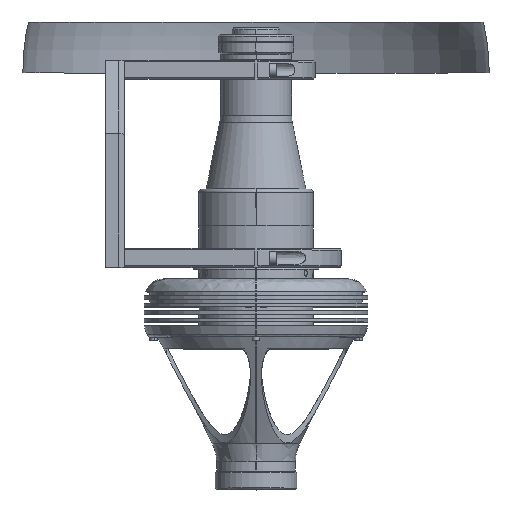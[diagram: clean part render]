
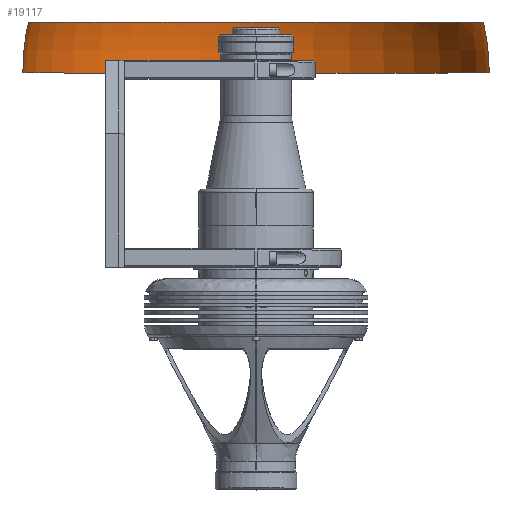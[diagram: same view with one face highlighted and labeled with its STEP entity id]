
A CAD part, top view. The second image highlights one B-rep face of the part: STEP entity #19117.
In plain terms, the highlighted face is a revolution surface.
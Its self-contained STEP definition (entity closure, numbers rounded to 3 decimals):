
#19117 = ADVANCED_FACE('',(#19118),#19136,.T.);
#19118 = FACE_BOUND('',#19119,.T.);
#19119 = EDGE_LOOP('',(#19120,#19150,#19173,#19192));
#19120 = ORIENTED_EDGE('',*,*,#19121,.F.);
#19121 = EDGE_CURVE('',#19122,#19124,#19126,.T.);
#19122 = VERTEX_POINT('',#19123);
#19123 = CARTESIAN_POINT('',(-124.,16.66,0.)
  );
#19124 = VERTEX_POINT('',#19125);
#19125 = CARTESIAN_POINT('',(-121.025,43.66,
    0.));
#19126 = SURFACE_CURVE('',#19127,(#19135),.PCURVE_S1.);
#19127 = ( BOUNDED_CURVE() B_SPLINE_CURVE(6,(#19128,#19129,#19130,#19131
    ,#19132,#19133,#19134),.UNSPECIFIED.,.F.,.F.) 
B_SPLINE_CURVE_WITH_KNOTS((7,7),(0.,1.),.PIECEWISE_BEZIER_KNOTS.) CURVE(
) GEOMETRIC_REPRESENTATION_ITEM() RATIONAL_B_SPLINE_CURVE((
    1.001,1.,1.,1.,
1.,1.,1.001)) REPRESENTATION_ITEM('') 
  );
#19128 = CARTESIAN_POINT('',(-124.,16.66,0.)
  );
#19129 = CARTESIAN_POINT('',(-124.,21.198,
    0.));
#19130 = CARTESIAN_POINT('',(-123.801,25.734,
    0.));
#19131 = CARTESIAN_POINT('',(-123.402,30.258,
    0.));
#19132 = CARTESIAN_POINT('',(-122.806,34.76,
    0.));
#19133 = CARTESIAN_POINT('',(-122.013,39.231,
    0.));
#19134 = CARTESIAN_POINT('',(-121.025,43.66,
    0.));
#19135 = PCURVE('',#19136,#19145);
#19136 = SURFACE_OF_REVOLUTION('',#19137,#19142);
#19137 = CIRCLE('',#19138,124.);
#19138 = AXIS2_PLACEMENT_3D('',#19139,#19140,#19141);
#19139 = CARTESIAN_POINT('',(0.,16.66,0.));
#19140 = DIRECTION('',(0.,0.,1.));
#19141 = DIRECTION('',(1.,0.,0.));
#19142 = AXIS1_PLACEMENT('',#19143,#19144);
#19143 = CARTESIAN_POINT('',(0.,16.66,0.));
#19144 = DIRECTION('',(0.,1.,0.));
#19145 = DEFINITIONAL_REPRESENTATION('',(#19146),#19149);
#19146 = B_SPLINE_CURVE_WITH_KNOTS('',1,(#19147,#19148),.UNSPECIFIED.,
  .F.,.F.,(2,2),(0.,1.),.PIECEWISE_BEZIER_KNOTS.);
#19147 = CARTESIAN_POINT('',(6.283,3.142));
#19148 = CARTESIAN_POINT('',(6.283,2.922));
#19149 = ( GEOMETRIC_REPRESENTATION_CONTEXT(2) 
PARAMETRIC_REPRESENTATION_CONTEXT() REPRESENTATION_CONTEXT('',''
  ) );
#19150 = ORIENTED_EDGE('',*,*,#19151,.F.);
#19151 = EDGE_CURVE('',#19152,#19122,#19154,.T.);
#19152 = VERTEX_POINT('',#19153);
#19153 = CARTESIAN_POINT('',(124.,16.66,0.));
#19154 = SURFACE_CURVE('',#19155,(#19167),.PCURVE_S1.);
#19155 = B_SPLINE_CURVE_WITH_KNOTS('',10,(#19156,#19157,#19158,#19159,
    #19160,#19161,#19162,#19163,#19164,#19165,#19166),.UNSPECIFIED.,.F.,
  .F.,(11,11),(0.,1.),.PIECEWISE_BEZIER_KNOTS.);
#19156 = CARTESIAN_POINT('',(124.,16.66,0.));
#19157 = CARTESIAN_POINT('',(124.,16.66,
    -38.956));
#19158 = CARTESIAN_POINT('',(110.402,16.66,
    -77.911));
#19159 = CARTESIAN_POINT('',(83.205,16.66,
    -111.527));
#19160 = CARTESIAN_POINT('',(44.809,16.66,
    -134.463));
#19161 = CARTESIAN_POINT('',(0.,16.66,
    -142.634));
#19162 = CARTESIAN_POINT('',(-44.809,16.66,
    -134.463));
#19163 = CARTESIAN_POINT('',(-83.205,16.66,
    -111.527));
#19164 = CARTESIAN_POINT('',(-110.402,16.66,
    -77.911));
#19165 = CARTESIAN_POINT('',(-124.,16.66,-38.956));
#19166 = CARTESIAN_POINT('',(-124.,16.66,0.)
  );
#19167 = PCURVE('',#19136,#19168);
#19168 = DEFINITIONAL_REPRESENTATION('',(#19169),#19172);
#19169 = B_SPLINE_CURVE_WITH_KNOTS('',1,(#19170,#19171),.UNSPECIFIED.,
  .F.,.F.,(2,2),(0.,1.),.PIECEWISE_BEZIER_KNOTS.);
#19170 = CARTESIAN_POINT('',(3.142,3.142));
#19171 = CARTESIAN_POINT('',(6.283,3.142));
#19172 = ( GEOMETRIC_REPRESENTATION_CONTEXT(2) 
PARAMETRIC_REPRESENTATION_CONTEXT() REPRESENTATION_CONTEXT('',''
  ) );
#19173 = ORIENTED_EDGE('',*,*,#19174,.F.);
#19174 = EDGE_CURVE('',#19175,#19152,#19177,.T.);
#19175 = VERTEX_POINT('',#19176);
#19176 = CARTESIAN_POINT('',(121.025,43.66,
    0.));
#19177 = SURFACE_CURVE('',#19178,(#19186),.PCURVE_S1.);
#19178 = ( BOUNDED_CURVE() B_SPLINE_CURVE(6,(#19179,#19180,#19181,#19182
    ,#19183,#19184,#19185),.UNSPECIFIED.,.F.,.F.) 
B_SPLINE_CURVE_WITH_KNOTS((7,7),(0.,1.),.PIECEWISE_BEZIER_KNOTS.) CURVE(
) GEOMETRIC_REPRESENTATION_ITEM() RATIONAL_B_SPLINE_CURVE((
    1.001,1.,1.,1.,
1.,1.,1.001)) REPRESENTATION_ITEM('') 
  );
#19179 = CARTESIAN_POINT('',(121.025,43.66,
    0.));
#19180 = CARTESIAN_POINT('',(122.013,39.231,
    0.));
#19181 = CARTESIAN_POINT('',(122.806,34.76,
    0.));
#19182 = CARTESIAN_POINT('',(123.402,30.258,
    0.));
#19183 = CARTESIAN_POINT('',(123.801,25.734,
    0.));
#19184 = CARTESIAN_POINT('',(124.,21.198,
    0.));
#19185 = CARTESIAN_POINT('',(124.,16.66,0.));
#19186 = PCURVE('',#19136,#19187);
#19187 = DEFINITIONAL_REPRESENTATION('',(#19188),#19191);
#19188 = B_SPLINE_CURVE_WITH_KNOTS('',1,(#19189,#19190),.UNSPECIFIED.,
  .F.,.F.,(2,2),(0.,1.),.PIECEWISE_BEZIER_KNOTS.);
#19189 = CARTESIAN_POINT('',(3.142,2.922));
#19190 = CARTESIAN_POINT('',(3.142,3.142));
#19191 = ( GEOMETRIC_REPRESENTATION_CONTEXT(2) 
PARAMETRIC_REPRESENTATION_CONTEXT() REPRESENTATION_CONTEXT('',''
  ) );
#19192 = ORIENTED_EDGE('',*,*,#19193,.F.);
#19193 = EDGE_CURVE('',#19124,#19175,#19194,.T.);
#19194 = SURFACE_CURVE('',#19195,(#19207),.PCURVE_S1.);
#19195 = B_SPLINE_CURVE_WITH_KNOTS('',10,(#19196,#19197,#19198,#19199,
    #19200,#19201,#19202,#19203,#19204,#19205,#19206),.UNSPECIFIED.,.F.,
  .F.,(11,11),(0.,1.),.PIECEWISE_BEZIER_KNOTS.);
#19196 = CARTESIAN_POINT('',(-121.025,43.66,
    0.));
#19197 = CARTESIAN_POINT('',(-121.025,43.66,
    -38.021));
#19198 = CARTESIAN_POINT('',(-107.753,43.66,
    -76.042));
#19199 = CARTESIAN_POINT('',(-81.209,43.66,
    -108.851));
#19200 = CARTESIAN_POINT('',(-43.733,43.66,
    -131.237));
#19201 = CARTESIAN_POINT('',(0.,43.66,
    -139.212));
#19202 = CARTESIAN_POINT('',(43.733,43.66,
    -131.237));
#19203 = CARTESIAN_POINT('',(81.209,43.66,
    -108.851));
#19204 = CARTESIAN_POINT('',(107.753,43.66,
    -76.042));
#19205 = CARTESIAN_POINT('',(121.025,43.66,
    -38.021));
#19206 = CARTESIAN_POINT('',(121.025,43.66,
    0.));
#19207 = PCURVE('',#19136,#19208);
#19208 = DEFINITIONAL_REPRESENTATION('',(#19209),#19212);
#19209 = B_SPLINE_CURVE_WITH_KNOTS('',1,(#19210,#19211),.UNSPECIFIED.,
  .F.,.F.,(2,2),(0.,1.),.PIECEWISE_BEZIER_KNOTS.);
#19210 = CARTESIAN_POINT('',(6.283,2.922));
#19211 = CARTESIAN_POINT('',(3.142,2.922));
#19212 = ( GEOMETRIC_REPRESENTATION_CONTEXT(2) 
PARAMETRIC_REPRESENTATION_CONTEXT() REPRESENTATION_CONTEXT('',''
  ) );
